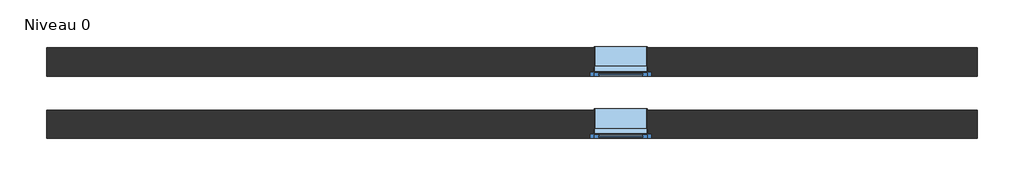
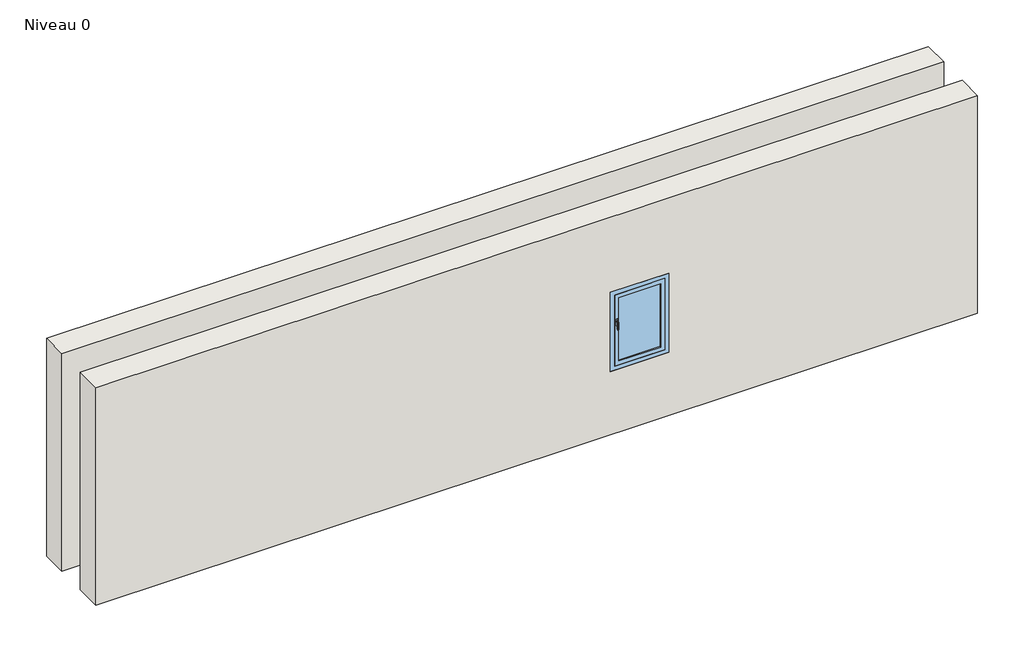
# One storey: 2 walls, 2 windows.
"""IFC4 building model written with IfcOpenShell, lengths in millimetres."""

from ifc_helpers import new_model, si_unit, origin, place, context, project, spatial, faceted_brep, transform, mapped, element, save
from components import window_1_vantail_droit_5c4c0683

model = new_model("IFC4")

# Units and contexts
model_context = context("Model", 3, world=origin())
ifc_project = project(units=[si_unit("LENGTHUNIT", "METRE", prefix="MILLI")], contexts=[model_context])

# Site, building, storey
site = spatial("IfcSite", under=ifc_project)
building = spatial("IfcBuilding", under=site)
storey = spatial("IfcBuildingStorey", under=building, Name="Niveau 0", Elevation=0.0)

# Walls
placement = place(None, origin())
element("IfcWall", 1, ObjectType="Ext. Parpaing 20 + Isolant 10", at=placement, inside=storey, context=model_context, shape_type="Brep", body=[
    faceted_brep([(-10156.4169518, -816.9601961, 0.0), (383.5830482, -816.9601961, 0.0), (383.5830482, -816.9601961, 2750.0), (-10156.4169518, -816.9601961, 2750.0), (-3306.4169518, -816.9601961, 800.0), (-4006.4169518, -816.9601961, 800.0), (-4006.4169518, -816.9601961, 1800.0), (-3306.4169518, -816.9601961, 1800.0), (-10156.4169518, -496.9601961, 0.0), (-10156.4169518, -496.9601961, 2750.0), (383.5830482, -496.9601961, 2750.0), (383.5830482, -496.9601961, 0.0), (-3956.4169518, -496.9601961, 1750.0), (-3956.4169518, -496.9601961, 759.7749835), (-3356.4169518, -496.9601961, 759.7749835), (-3356.4169518, -496.9601961, 1750.0), (-3956.4169518, -736.9601961, 800.0), (-3956.4169518, -736.9601961, 785.0), (-3956.4169518, -716.9601961, 1750.0), (-3956.4169518, -716.9601961, 800.0), (-3356.4169518, -736.9601961, 785.0), (-3356.4169518, -736.9601961, 800.0), (-3356.4169518, -716.9601961, 800.0), (-3356.4169518, -716.9601961, 1750.0), (-3966.4169518, -716.9601961, 800.0), (-3966.4169518, -766.9601961, 800.0), (-4006.4169518, -766.9601961, 800.0), (-3306.4169518, -766.9601961, 800.0), (-3346.4169518, -766.9601961, 800.0), (-3346.4169518, -716.9601961, 800.0), (-4006.4169518, -766.9601961, 1800.0), (-3966.4169518, -766.9601961, 1760.0), (-3346.4169518, -766.9601961, 1760.0), (-3306.4169518, -766.9601961, 1800.0), (-3966.4169518, -716.9601961, 1760.0), (-3346.4169518, -716.9601961, 1760.0)], [[[0, 1, 2, 3], [4, 5, 6, 7]], [[8, 9, 10, 11], [12, 13, 14, 15]], [[1, 0, 8, 11]], [[2, 1, 11, 10]], [[3, 2, 10, 9]], [[0, 3, 9, 8]], [[16, 17, 13, 12, 18, 19]], [[20, 21, 22, 23, 15, 14]], [[17, 20, 14, 13]], [[17, 16, 21, 20]], [[12, 15, 23, 18]], [[21, 16, 19, 24, 25, 26, 5, 4, 27, 28, 29, 22]], [[5, 26, 30, 6]], [[26, 25, 31, 32, 28, 27, 33, 30]], [[25, 24, 34, 31]], [[24, 19, 18, 23, 22, 29, 35, 34]], [[6, 30, 33, 7]], [[32, 31, 34, 35]], [[33, 27, 4, 7]], [[28, 32, 35, 29]]]),
])
element("IfcWall", 2, ObjectType="Ext. Parpaing 20 + Isolant 11", at=placement, inside=storey, context=model_context, shape_type="Brep", body=[
    faceted_brep([(-10157.8652694, -1521.0872298, 0.0), (382.1347306, -1521.0872298, 0.0), (382.1347306, -1521.0872298, 2750.0), (-10157.8652694, -1521.0872298, 2750.0), (-3306.4169518, -1521.0872298, 800.0), (-4006.4169518, -1521.0872298, 800.0), (-4006.4169518, -1521.0872298, 1800.0), (-3306.4169518, -1521.0872298, 1800.0), (-10157.8652694, -1201.0872298, 0.0), (-10157.8652694, -1201.0872298, 2750.0), (382.1347306, -1201.0872298, 2750.0), (382.1347306, -1201.0872298, 0.0), (-3956.4169518, -1201.0872298, 1750.0), (-3956.4169518, -1201.0872298, 759.7749835), (-3356.4169518, -1201.0872298, 759.7749835), (-3356.4169518, -1201.0872298, 1750.0), (-3956.4169518, -1441.0872298, 800.0), (-3956.4169518, -1441.0872298, 785.0), (-3956.4169518, -1421.0872298, 1750.0), (-3956.4169518, -1421.0872298, 800.0), (-3356.4169518, -1441.0872298, 785.0), (-3356.4169518, -1441.0872298, 800.0), (-3356.4169518, -1421.0872298, 800.0), (-3356.4169518, -1421.0872298, 1750.0), (-3966.4169518, -1421.0872298, 800.0), (-3966.4169518, -1471.0872298, 800.0), (-4006.4169518, -1471.0872298, 800.0), (-3306.4169518, -1471.0872298, 800.0), (-3346.4169518, -1471.0872298, 800.0), (-3346.4169518, -1421.0872298, 800.0), (-4006.4169518, -1471.0872298, 1800.0), (-3966.4169518, -1471.0872298, 1760.0), (-3346.4169518, -1471.0872298, 1760.0), (-3306.4169518, -1471.0872298, 1800.0), (-3966.4169518, -1421.0872298, 1760.0), (-3346.4169518, -1421.0872298, 1760.0)], [[[0, 1, 2, 3], [4, 5, 6, 7]], [[8, 9, 10, 11], [12, 13, 14, 15]], [[1, 0, 8, 11]], [[2, 1, 11, 10]], [[3, 2, 10, 9]], [[0, 3, 9, 8]], [[16, 17, 13, 12, 18, 19]], [[20, 21, 22, 23, 15, 14]], [[17, 20, 14, 13]], [[17, 16, 21, 20]], [[12, 15, 23, 18]], [[21, 16, 19, 24, 25, 26, 5, 4, 27, 28, 29, 22]], [[5, 26, 30, 6]], [[26, 25, 31, 32, 28, 27, 33, 30]], [[25, 24, 34, 31]], [[24, 19, 18, 23, 22, 29, 35, 34]], [[6, 30, 33, 7]], [[32, 31, 34, 35]], [[33, 27, 4, 7]], [[28, 32, 35, 29]]]),
])

# Windows
window_1_vantail_droit_shape = window_1_vantail_droit_5c4c0683(model_context)
element("IfcWindow", 3, ObjectType="1 Vantail - Droit : 0.60 m x 0.95 m - Appui en aluminium", at=placement, inside=storey, context=model_context, shape_type="MappedRepresentation", body=[
    mapped(window_1_vantail_droit_shape, transform((-3656.4169518, -656.9601961, 0.0), x_axis=(1.0, 0.0, 0.0), y_axis=(0.0, 1.0, 0.0), z_axis=(0.0, 0.0, 1.0))),
])
element("IfcWindow", 4, ObjectType="1 Vantail - Droit : 0.60 m x 0.95 m - Appui en aluminium", at=placement, inside=storey, context=model_context, shape_type="MappedRepresentation", body=[
    mapped(window_1_vantail_droit_shape, transform((-3656.4169518, -1361.0872298, 0.0), x_axis=(1.0, 0.0, 0.0), y_axis=(0.0, 1.0, 0.0), z_axis=(0.0, 0.0, 1.0))),
])

save(model, "model.ifc")
